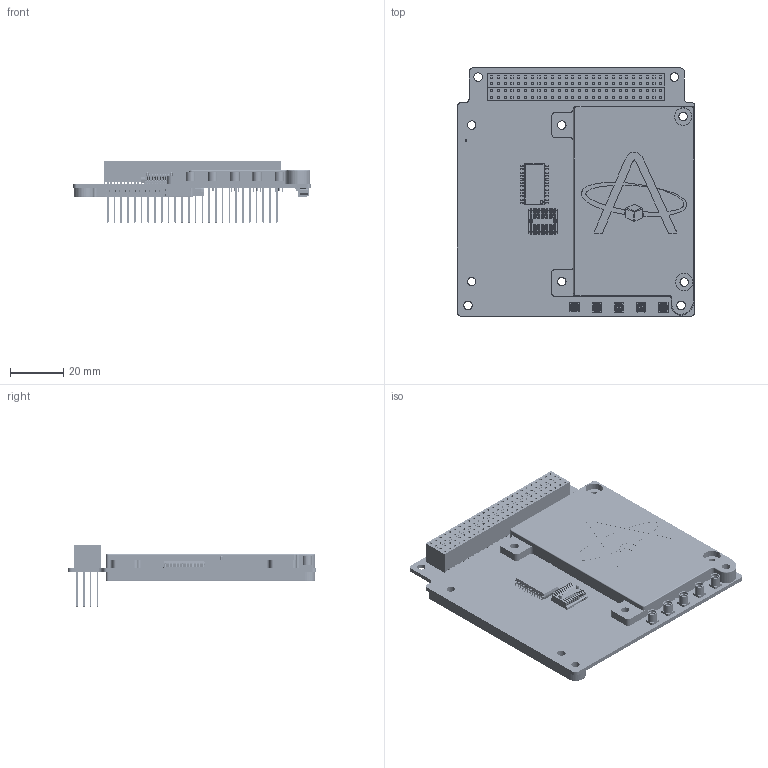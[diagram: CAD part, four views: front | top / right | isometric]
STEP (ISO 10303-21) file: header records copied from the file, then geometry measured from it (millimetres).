
FILE_DESCRIPTION (( 'STEP AP214' ), '1' );
FILE_NAME ('Motherboard-FM+shielding.STEP', '2021-04-09T14:11:47', ( '' ), ( '' ), 'SwSTEP 2.0', 'SolidWorks 2021', '' );
FILE_SCHEMA (( 'AUTOMOTIVE_DESIGN' ));
Length unit declared in the file: millimetre
Products named in the file (4): PCB_Totem_FM; TOTEM-FM-PowerStage-shielding; TOTEM-FM-FPGA-shielding; Motherboard-FM+shielding
Assembly tree (3 placements, depth 2):
  Motherboard-FM+shielding
    PCB_Totem_FM
    TOTEM-FM-FPGA-shielding
    TOTEM-FM-PowerStage-shielding
Bounding box: 89.3 x 93.3 x 23.34 mm (x, y, z)
Volume: 33184.2 mm3; surface area: 52644.3 mm2
Topology: 87 solids, 87 shells, 6256 faces, 17122 edges, 11107 vertices
Faces by surface type: plane 4748, cylinder 970, sphere 230, bspline 205, cone 72, torus 31
Entity records: 269323 total; most frequent: CARTESIAN_POINT 46793, ORIENTED_EDGE 33512, DIRECTION 30950, EDGE_CURVE 16756, LINE 13680, VECTOR 13680, VERTEX_POINT 10981, AXIS2_PLACEMENT_3D 8635
